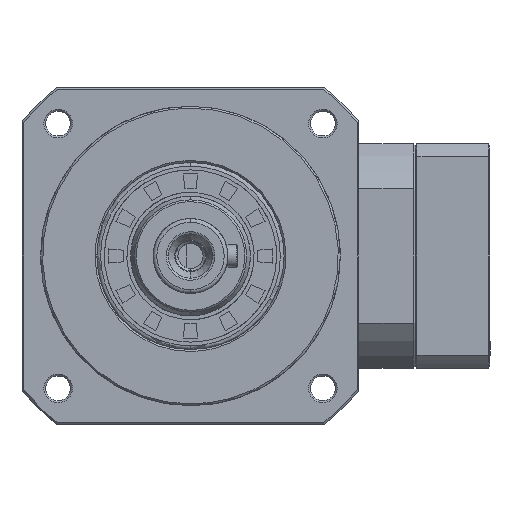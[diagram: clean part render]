
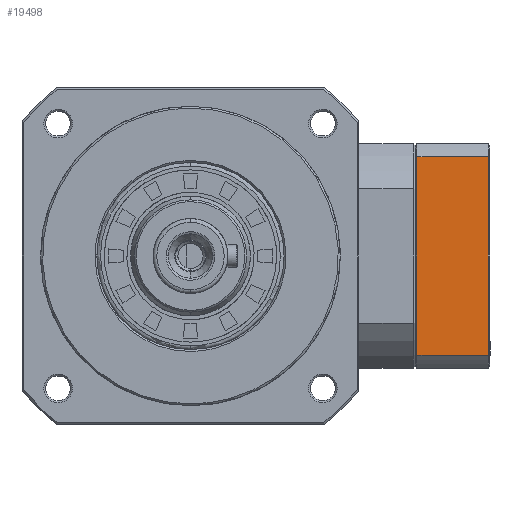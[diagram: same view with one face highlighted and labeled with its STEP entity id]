
A CAD part, left-side view. The second image highlights one B-rep face of the part: STEP entity #19498.
In plain terms, the highlighted planar face has unit normal (1, 0, 0).
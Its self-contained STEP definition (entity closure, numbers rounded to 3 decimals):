
#4797 = ORIENTED_EDGE ( 'NONE', *, *, #94371, .F. ) ;
#4845 = ORIENTED_EDGE ( 'NONE', *, *, #38341, .F. ) ;
#6055 = CARTESIAN_POINT ( 'NONE',  ( 137., -60.5, 26.458 ) ) ;
#6464 = VECTOR ( 'NONE', #98506, 1000. ) ;
#11281 = LINE ( 'NONE', #16210, #48781 ) ;
#14429 = LINE ( 'NONE', #64998, #48254 ) ;
#16210 = CARTESIAN_POINT ( 'NONE',  ( 137., -79.5, 0. ) ) ;
#16285 = ORIENTED_EDGE ( 'NONE', *, *, #73633, .T. ) ;
#16636 = CARTESIAN_POINT ( 'NONE',  ( 137., -70., 26.458 ) ) ;
#19498 = ADVANCED_FACE ( 'NONE', ( #22155 ), #62700, .T. ) ;
#22155 = FACE_OUTER_BOUND ( 'NONE', #70081, .T. ) ;
#22555 = VERTEX_POINT ( 'NONE', #6055 ) ;
#23488 = DIRECTION ( 'NONE',  ( 0., 0., -1. ) ) ;
#29375 = CARTESIAN_POINT ( 'NONE',  ( 137., -79.5, 26.458 ) ) ;
#38341 = EDGE_CURVE ( 'NONE', #22555, #98086, #50233, .T. ) ;
#46653 = AXIS2_PLACEMENT_3D ( 'NONE', #103474, #47955, #23488 ) ;
#47955 = DIRECTION ( 'NONE',  ( 1., 0., 0. ) ) ;
#48254 = VECTOR ( 'NONE', #88690, 1000. ) ;
#48781 = VECTOR ( 'NONE', #72138, 1000. ) ;
#48870 = VERTEX_POINT ( 'NONE', #29375 ) ;
#50233 = LINE ( 'NONE', #82775, #6464 ) ;
#56742 = LINE ( 'NONE', #16636, #66789 ) ;
#60278 = ORIENTED_EDGE ( 'NONE', *, *, #80988, .T. ) ;
#62700 = PLANE ( 'NONE',  #46653 ) ;
#64569 = CARTESIAN_POINT ( 'NONE',  ( 137., -60.5, -26.458 ) ) ;
#64998 = CARTESIAN_POINT ( 'NONE',  ( 137., -70., -26.458 ) ) ;
#66789 = VECTOR ( 'NONE', #96635, 1000. ) ;
#70081 = EDGE_LOOP ( 'NONE', ( #4845, #16285, #4797, #60278 ) ) ;
#72138 = DIRECTION ( 'NONE',  ( 0., 0., 1. ) ) ;
#73633 = EDGE_CURVE ( 'NONE', #22555, #48870, #56742, .T. ) ;
#80988 = EDGE_CURVE ( 'NONE', #95348, #98086, #14429, .T. ) ;
#82775 = CARTESIAN_POINT ( 'NONE',  ( 137., -60.5, 0. ) ) ;
#84795 = CARTESIAN_POINT ( 'NONE',  ( 137., -79.5, -26.458 ) ) ;
#88690 = DIRECTION ( 'NONE',  ( 0., 1., 0. ) ) ;
#94371 = EDGE_CURVE ( 'NONE', #95348, #48870, #11281, .T. ) ;
#95348 = VERTEX_POINT ( 'NONE', #84795 ) ;
#96635 = DIRECTION ( 'NONE',  ( 0., -1., 0. ) ) ;
#98086 = VERTEX_POINT ( 'NONE', #64569 ) ;
#98506 = DIRECTION ( 'NONE',  ( 0., 0., -1. ) ) ;
#103474 = CARTESIAN_POINT ( 'NONE',  ( 137., -79.5, 26.458 ) ) ;
